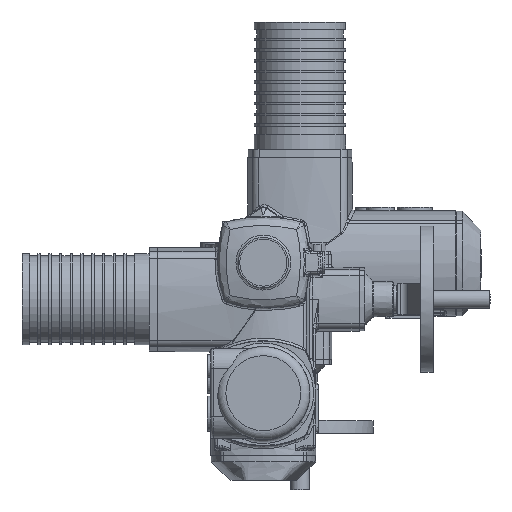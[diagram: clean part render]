
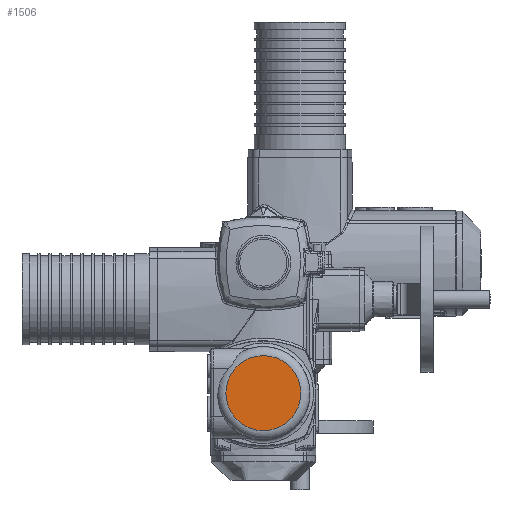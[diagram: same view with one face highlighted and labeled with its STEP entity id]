
A CAD part, top view. The second image highlights one B-rep face of the part: STEP entity #1506.
In plain terms, the highlighted planar face has unit normal (0, 0, 1) as drawn and (0, 0, -1) by its records, which use the part's own axes.
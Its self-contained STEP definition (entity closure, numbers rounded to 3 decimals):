
#1506 = ADVANCED_FACE( '', ( #4373 ), #4374, .F. );
#4373 = FACE_OUTER_BOUND( '', #8912, .T. );
#4374 = PLANE( '', #8913 );
#8912 = EDGE_LOOP( '', ( #20558 ) );
#8913 = AXIS2_PLACEMENT_3D( '', #20559, #20560, #20561 );
#20558 = ORIENTED_EDGE( '', *, *, #35093, .T. );
#20559 = CARTESIAN_POINT( '', ( 143., 0., -209. ) );
#20560 = DIRECTION( '', ( 0., 0., 1. ) );
#20561 = DIRECTION( '', ( 1., 0., 0. ) );
#35093 = EDGE_CURVE( '', #39842, #39842, #39843, .F. );
#39842 = VERTEX_POINT( '', #46989 );
#39843 = CIRCLE( '', #46990, 41. );
#46989 = CARTESIAN_POINT( '', ( 184., 0., -209. ) );
#46990 = AXIS2_PLACEMENT_3D( '', #70106, #70107, #70108 );
#70106 = CARTESIAN_POINT( '', ( 143., 0., -209. ) );
#70107 = DIRECTION( '', ( 0., 0., 1. ) );
#70108 = DIRECTION( '', ( 1., 0., 0. ) );
